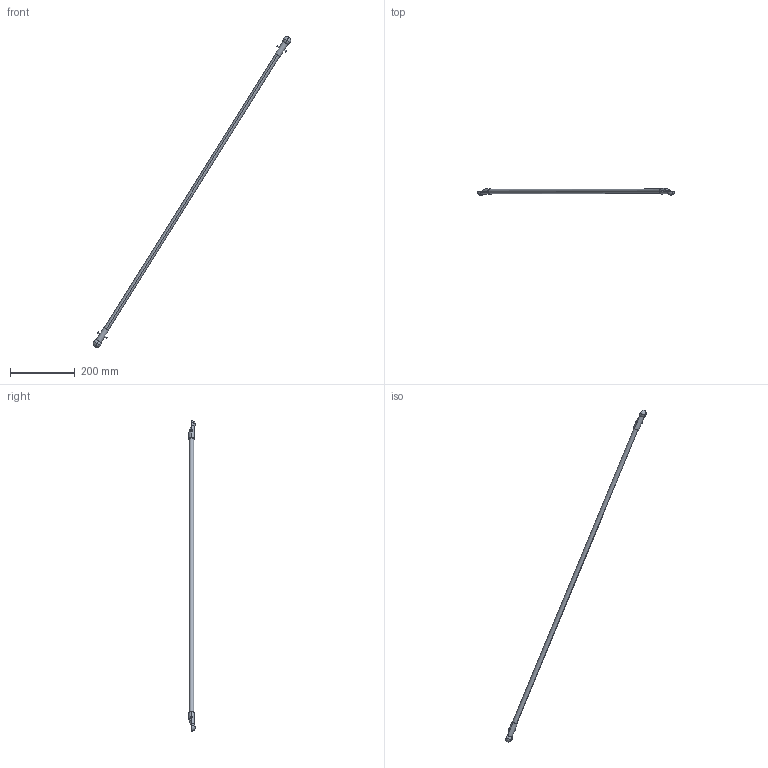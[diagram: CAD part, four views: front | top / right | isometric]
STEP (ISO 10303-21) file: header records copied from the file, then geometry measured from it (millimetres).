
FILE_DESCRIPTION (( 'STEP AP214' ), '1' );
FILE_NAME ('IRB360_X-1600-STD-4D_rev05_LA1_1_CAD.STEP', '2025-10-31T12:17:32', ( '' ), ( '' ), 'SwSTEP 2.0', 'SolidWorks 2024', '' );
FILE_SCHEMA (( 'AUTOMOTIVE_DESIGN' ));
Length unit declared in the file: millimetre
Products named in the file (1): IRB360_X-1600-STD-4D_rev05_LA1_1_CAD
Bounding box: 610.9 x 20.65 x 961.41 mm (x, y, z)
Volume: 177301.7 mm3; surface area: 51955 mm2
Topology: 1 solids, 1 shells, 44 faces, 114 edges, 70 vertices
Faces by surface type: cylinder 16, sphere 10, plane 10, cone 8
Entity records: 1737 total; most frequent: CARTESIAN_POINT 699, DIRECTION 220, ORIENTED_EDGE 208, EDGE_CURVE 104, AXIS2_PLACEMENT_3D 93, VERTEX_POINT 66, CIRCLE 48, EDGE_LOOP 48
